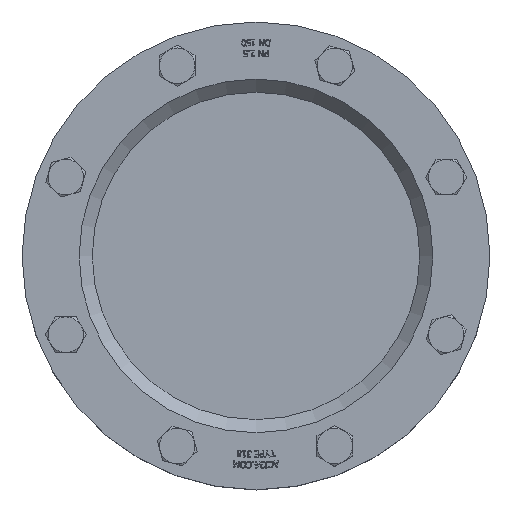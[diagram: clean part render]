
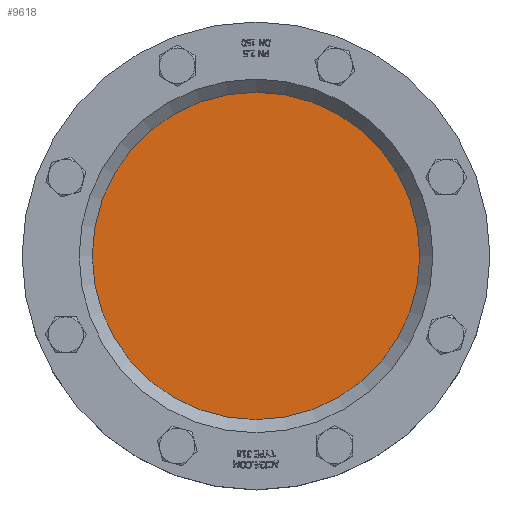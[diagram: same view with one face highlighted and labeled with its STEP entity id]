
A CAD part, top view. The second image highlights one B-rep face of the part: STEP entity #9618.
In plain terms, the highlighted planar face has unit normal (0, 0, 1).
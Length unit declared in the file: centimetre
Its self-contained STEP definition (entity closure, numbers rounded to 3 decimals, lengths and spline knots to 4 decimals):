
#3023=FACE_OUTER_BOUND('',#3589,.T.);
#3589=EDGE_LOOP('',(#6601));
#4204=CIRCLE('',#10180,8.75);
#4296=VERTEX_POINT('',#12431);
#5210=EDGE_CURVE('',#4296,#4296,#4204,.T.);
#6601=ORIENTED_EDGE('',*,*,#5210,.F.);
#9311=PLANE('',#10179);
#9618=ADVANCED_FACE('',(#3023),#9311,.F.);
#10179=AXIS2_PLACEMENT_3D('',#12430,#10673,#10674);
#10180=AXIS2_PLACEMENT_3D('',#12432,#10675,#10676);
#10673=DIRECTION('center_axis',(0.,0.,
-1.));
#10674=DIRECTION('ref_axis',(-1.,0.,0.));
#10675=DIRECTION('center_axis',(0.,0.,
-1.));
#10676=DIRECTION('ref_axis',(1.,0.,0.));
#12430=CARTESIAN_POINT('Origin',(3.6266,0.0625,-11.8311));
#12431=CARTESIAN_POINT('',(-5.1234,0.0625,-11.8311));
#12432=CARTESIAN_POINT('Origin',(3.6266,0.0625,-11.8311));
